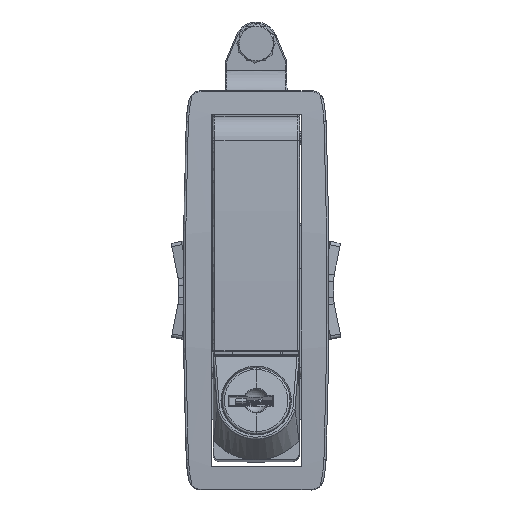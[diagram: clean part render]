
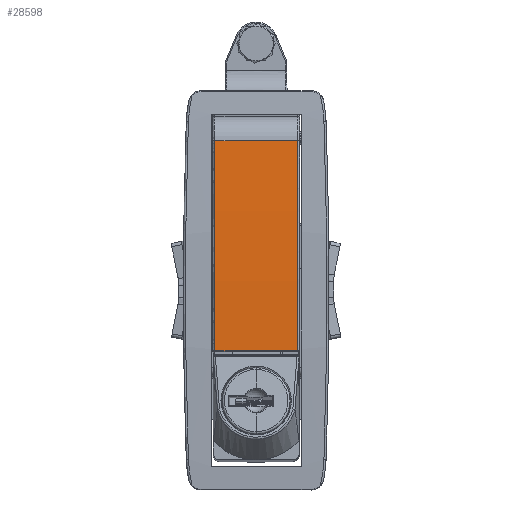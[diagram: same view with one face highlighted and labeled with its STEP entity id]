
A CAD part, front view. The second image highlights one B-rep face of the part: STEP entity #28598.
In plain terms, the highlighted cylindrical face has radius 600 mm (diameter 1200 mm), a partial arc.
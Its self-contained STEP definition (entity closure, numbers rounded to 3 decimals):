
#148 = VERTEX_POINT ( 'NONE', #7734 ) ;
#204 = VERTEX_POINT ( 'NONE', #7790 ) ;
#205 = VERTEX_POINT ( 'NONE', #7791 ) ;
#210 = VERTEX_POINT ( 'NONE', #7796 ) ;
#1278 = ORIENTED_EDGE ( 'NONE', *, *, #28161, .T. ) ;
#1279 = ORIENTED_EDGE ( 'NONE', *, *, #28158, .T. ) ;
#1280 = ORIENTED_EDGE ( 'NONE', *, *, #28162, .T. ) ;
#1281 = ORIENTED_EDGE ( 'NONE', *, *, #28156, .T. ) ;
#6053 = EDGE_LOOP ( 'NONE', ( #1278, #1279, #1280, #1281 ) ) ;
#7734 = CARTESIAN_POINT ( 'NONE',  ( -186.339, -0.539, 82.247 ) ) ;
#7790 = CARTESIAN_POINT ( 'NONE',  ( -205.539, 0.308, 131.2 ) ) ;
#7791 = CARTESIAN_POINT ( 'NONE',  ( -186.339, 0.308, 131.2 ) ) ;
#7796 = CARTESIAN_POINT ( 'NONE',  ( -205.539, -0.539, 82.247 ) ) ;
#23625 = VECTOR ( 'NONE', #25551, 1000. ) ;
#23633 = CIRCLE ( 'NONE', #25975, 600. ) ;
#23634 = CIRCLE ( 'NONE', #25976, 600. ) ;
#23636 = LINE ( 'NONE', #25544, #23625 ) ;
#23638 = LINE ( 'NONE', #25552, #23639 ) ;
#23639 = VECTOR ( 'NONE', #25553, 1000. ) ;
#24248 = CYLINDRICAL_SURFACE ( 'NONE', #26217, 600. ) ;
#24249 = FACE_OUTER_BOUND ( 'NONE', #6053, .T. ) ;
#25527 = CARTESIAN_POINT ( 'NONE',  ( -205.539, 599.295, 96.352 ) ) ;
#25531 = DIRECTION ( 'NONE',  ( 1., 0., 0. ) ) ;
#25532 = DIRECTION ( 'NONE',  ( 0., 0., -1. ) ) ;
#25541 = CARTESIAN_POINT ( 'NONE',  ( -186.339, 599.295, 96.352 ) ) ;
#25542 = DIRECTION ( 'NONE',  ( -1., 0., 0. ) ) ;
#25543 = DIRECTION ( 'NONE',  ( 0., 0., -1. ) ) ;
#25544 = CARTESIAN_POINT ( 'NONE',  ( -205.439, -0.539, 82.247 ) ) ;
#25551 = DIRECTION ( 'NONE',  ( 1., 0., 0. ) ) ;
#25552 = CARTESIAN_POINT ( 'NONE',  ( -205.439, 0.308, 131.2 ) ) ;
#25553 = DIRECTION ( 'NONE',  ( -1., 0., 0. ) ) ;
#25975 = AXIS2_PLACEMENT_3D ( 'NONE', #25527, #25531, #25532 ) ;
#25976 = AXIS2_PLACEMENT_3D ( 'NONE', #25541, #25542, #25543 ) ;
#26217 = AXIS2_PLACEMENT_3D ( 'NONE', #27528, #27527, #27489 ) ;
#27489 = DIRECTION ( 'NONE',  ( 0., 0., -1. ) ) ;
#27527 = DIRECTION ( 'NONE',  ( 1., 0., 0. ) ) ;
#27528 = CARTESIAN_POINT ( 'NONE',  ( -205.439, 599.295, 96.352 ) ) ;
#28156 = EDGE_CURVE ( 'NONE', #204, #210, #23633, .T. ) ;
#28158 = EDGE_CURVE ( 'NONE', #148, #205, #23634, .T. ) ;
#28161 = EDGE_CURVE ( 'NONE', #210, #148, #23636, .T. ) ;
#28162 = EDGE_CURVE ( 'NONE', #205, #204, #23638, .T. ) ;
#28598 = ADVANCED_FACE ( 'NONE', ( #24249 ), #24248, .T. ) ;
